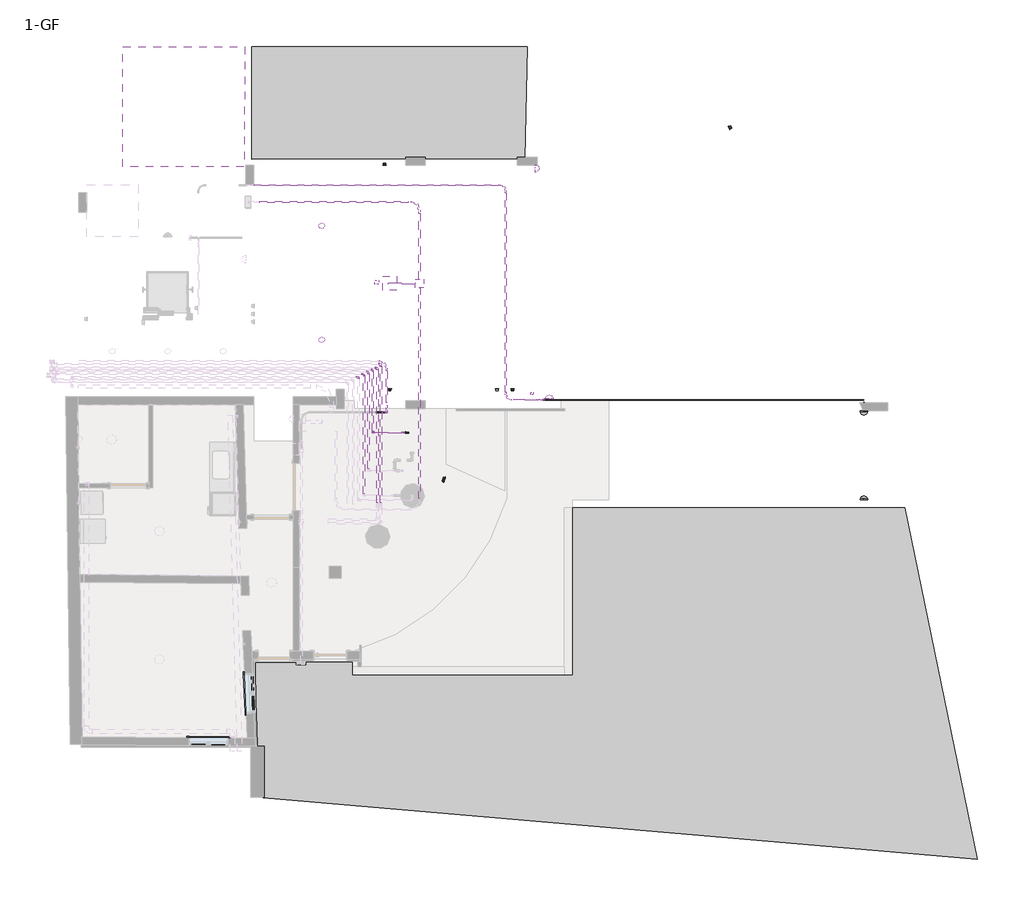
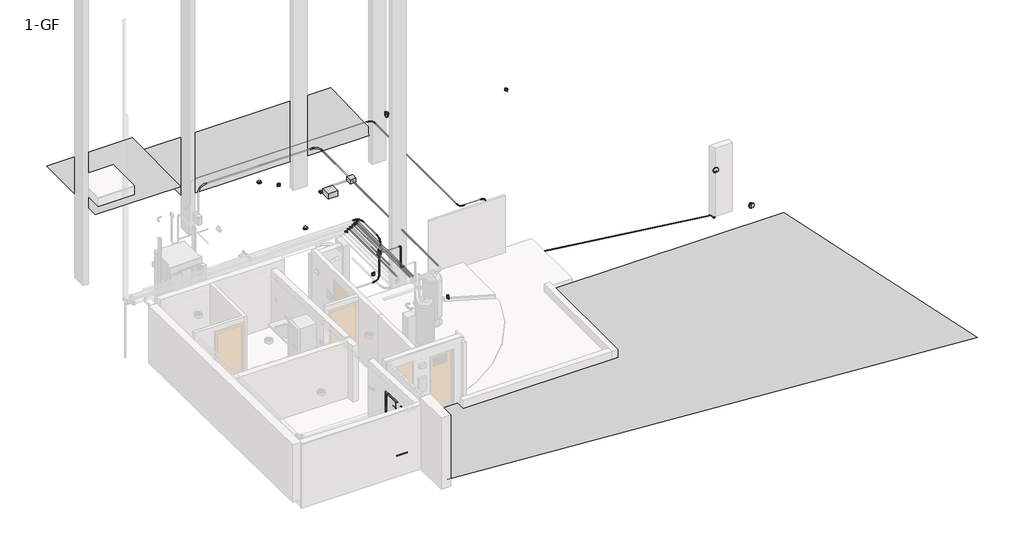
# One storey, part 5 of 5: 17 proxies, 12 cable carrier segments, 11 cable carrier fittings, 10 pipe fittings, 9 pipe segments, 7 light fixtures, 2 switching devices.
"""IFC4 building model written with IfcOpenShell, lengths in millimetres."""

from ifc_helpers import new_model, si_unit, point, frame, frame_2d, origin, place, context, project, spatial, circle_curve, trimmed, segment, composite_curve, outline, extrude, triangles, transform, mapped, element, save
from components import generic_models_1_generic_models_1_3ff43404, m_muntin_pattern_2x2_m_muntin_pattern_2x2_c1980b4f, m_muntin_pattern_2x2_m_muntin_pattern_2x2_d1c301e3, m_trim_window_exterior_flat_with_sill_cf2ed956, m_trim_window_interior_flat_picture_frame_fc7df726, wall_mounted_socket_ups_wall_mounted_socket_ups_4524048d, m_conduit_elbow_steel_standard_5c2c710b, m_conduit_elbow_steel_standard_c9f8af3b, m_conduit_elbow_steel_standard_91f70f14, m_conduit_elbow_without_fittings_emt_standard_0e6a189b, m_conduit_junction_box_tee_aluminum_standard_6fbf93d3, m_conduit_junction_box_tee_aluminum_standard_8073d2f8, m_recessed_lamp_round_led_e6f06c98, m_recessed_lamp_round_led_ae0475c0, street_light_07_uk_wall_mounted_94188376, street_light_07_uk_wall_mounted_68d1d246, m_bend_pvc_sch_40_dwv_standard_48d77e49, m_bend_pvc_sch_40_dwv_standard_b153bf5a, m_bend_pvc_sch_40_dwv_standard_be9000f5, switching_device_8f59fbb7, switching_device_ab05ab5c

model = new_model("IFC4")

# Units and contexts
model_context = context("Model", 3, world=origin())
ifc_project = project(units=[si_unit("LENGTHUNIT", "METRE", prefix="MILLI")], contexts=[model_context])

# Site, building, storey
site = spatial("IfcSite", under=ifc_project)
building = spatial("IfcBuilding", under=site)
storey = spatial("IfcBuildingStorey", under=building, Name="1-GF", Elevation=580.0)

# Proxies
placement = place(None, origin())
element("IfcBuildingElementProxy", 1, Name="Building Element Proxy", at=placement, inside=storey, context=model_context, shape_type="Tessellation", body=[
    triangles([(-543.6998437, -7000.2814316, 579.9999899), (17685.2228394, -8571.8337616, 579.9999899), (15844.0061554, 327.6987476, 579.9999899), (7426.3856552, 327.6987476, 579.9999899), (7426.3856552, -3902.0661827, 579.9999899), (1876.3853222, -3902.0661827, 579.9999899), (1876.3853222, -3574.6966301, 579.9999899), (-577.3736604, -3599.9116608, 579.9999899)], [[1, 6, 8], [6, 1, 5], [7, 8, 6], [5, 2, 3], [2, 5, 1], [3, 4, 5]], closed=False),
])
element("IfcBuildingElementProxy", 2, Name="Building Element Proxy", at=placement, inside=storey, context=model_context, shape_type="Tessellation", body=[
    triangles([(-3942.1224586, 11999.6303467, 2200.0000168), (-852.4765995, 11999.6303467, 2200.0000168), (-877.4765997, 8951.6623215, 2200.0000168), (-3942.1224586, 8951.6623215, 2200.0000168)], [[1, 4, 3], [3, 2, 1]], closed=False),
])
element("IfcBuildingElementProxy", 3, Name="Building Element Proxy", at=placement, inside=storey, context=model_context, shape_type="Tessellation", body=[
    triangles([(-677.4765982, 11999.6303467, 1600.0000122), (6287.8772415, 11999.6303467, 1600.0000122), (6231.0795456, 9163.1872009, 1600.0000122), (-677.4765982, 9151.662323, 1600.0000122)], [[1, 4, 3], [3, 2, 1]], closed=False),
])
generic_models_1_generic_models_1_shape = generic_models_1_generic_models_1_3ff43404(model_context)
element("IfcBuildingElementProxy", 4, Name="Generic Models 1 : Generic Models 1", ObjectType="Generic Models 1 : Generic Models 1", at=placement, inside=storey, context=model_context, shape_type="MappedRepresentation", body=[
    mapped(generic_models_1_generic_models_1_shape, transform((0.0, 0.0, 0.0), x_axis=(1.0, 0.0, 0.0), y_axis=(0.0, 1.0, 0.0), z_axis=(0.0, 0.0, 1.0))),
])
m_muntin_pattern_2x2_m_muntin_pattern_2x2_shape = m_muntin_pattern_2x2_m_muntin_pattern_2x2_c1980b4f(model_context)
element("IfcBuildingElementProxy", 5, Name="M_Muntin Pattern_2x2 : M_Muntin Pattern_2x2", ObjectType="M_Muntin Pattern_2x2 : M_Muntin Pattern_2x2", at=placement, inside=storey, context=model_context, shape_type="MappedRepresentation", body=[
    mapped(m_muntin_pattern_2x2_m_muntin_pattern_2x2_shape, transform((-660.9392563, -4117.6981437, 1179.9741971), x_axis=(0.03991052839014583, -0.9992032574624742, 0.0), y_axis=(0.9992032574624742, 0.03991052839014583, 0.0), z_axis=(0.0, 0.0, 1.0))),
])
element("IfcBuildingElementProxy", 6, Name="M_Muntin Pattern_2x2 : M_Muntin Pattern_2x2", ObjectType="M_Muntin Pattern_2x2 : M_Muntin Pattern_2x2", at=placement, inside=storey, context=model_context, shape_type="MappedRepresentation", body=[
    mapped(m_muntin_pattern_2x2_m_muntin_pattern_2x2_shape, transform((-1528.5445152, -5687.2705123, 1179.85), x_axis=(-0.9999589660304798, 0.009059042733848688, 0.0), y_axis=(-0.009059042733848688, -0.9999589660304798, 0.0), z_axis=(0.0, 0.0, 1.0))),
])
m_muntin_pattern_2x2_m_muntin_pattern_2x2_2_shape = m_muntin_pattern_2x2_m_muntin_pattern_2x2_d1c301e3(model_context)
element("IfcBuildingElementProxy", 7, Name="M_Muntin Pattern_2x2 : M_Muntin Pattern_2x2", ObjectType="M_Muntin Pattern_2x2 : M_Muntin Pattern_2x2", at=placement, inside=storey, context=model_context, shape_type="MappedRepresentation", body=[
    mapped(m_muntin_pattern_2x2_m_muntin_pattern_2x2_2_shape, transform((-641.1107081, -4614.1273021, 1179.9741971), x_axis=(-0.03991052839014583, 0.9992032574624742, 0.0), y_axis=(-0.9992032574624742, -0.03991052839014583, 0.0), z_axis=(0.0, 0.0, 1.0))),
])
element("IfcBuildingElementProxy", 8, Name="M_Muntin Pattern_2x2 : M_Muntin Pattern_2x2", ObjectType="M_Muntin Pattern_2x2 : M_Muntin Pattern_2x2", at=placement, inside=storey, context=model_context, shape_type="MappedRepresentation", body=[
    mapped(m_muntin_pattern_2x2_m_muntin_pattern_2x2_2_shape, transform((-2025.3491285, -5682.7697534, 1179.85), x_axis=(0.9999589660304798, -0.009059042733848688, 0.0), y_axis=(0.009059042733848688, 0.9999589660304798, 0.0), z_axis=(0.0, 0.0, 1.0))),
])
m_trim_window_exterior_flat_with_sill_shape = m_trim_window_exterior_flat_with_sill_cf2ed956(model_context)
element("IfcBuildingElementProxy", 9, Name="M_Trim-Window-Exterior-Flat : with Sill", ObjectType="M_Trim-Window-Exterior-Flat : with Sill", at=placement, inside=storey, context=model_context, shape_type="MappedRepresentation", body=[
    mapped(m_trim_window_exterior_flat_with_sill_shape, transform((-641.5075712, -4365.5325751, 2110.1241971), x_axis=(-0.03991052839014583, 0.9992032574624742, 0.0), y_axis=(0.0, 0.0, 1.0), z_axis=(0.9992032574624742, 0.03991052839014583, 0.0))),
])
element("IfcBuildingElementProxy", 10, Name="M_Trim-Window-Exterior-Flat : with Sill", ObjectType="M_Trim-Window-Exterior-Flat : with Sill", at=placement, inside=storey, context=model_context, shape_type="MappedRepresentation", body=[
    mapped(m_trim_window_exterior_flat_with_sill_shape, transform((-1777.0331093, -5694.544742, 2110.0), x_axis=(0.9999589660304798, -0.009059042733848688, 0.0), y_axis=(0.0, 0.0, 1.0), z_axis=(-0.009059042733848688, -0.9999589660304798, 0.0))),
])
m_trim_window_interior_flat_picture_frame_shape = m_trim_window_interior_flat_picture_frame_fc7df726(model_context)
element("IfcBuildingElementProxy", 11, Name="M_Trim-Window-Interior-Flat : Picture Frame", ObjectType="M_Trim-Window-Interior-Flat : Picture Frame", at=placement, inside=storey, context=model_context, shape_type="MappedRepresentation", body=[
    mapped(m_trim_window_interior_flat_picture_frame_shape, transform((-841.3482227, -4373.5146808, 2110.1241971), x_axis=(0.03991052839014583, -0.9992032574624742, 0.0), y_axis=(0.0, 0.0, 1.0), z_axis=(-0.9992032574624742, -0.03991052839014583, 0.0))),
])
element("IfcBuildingElementProxy", 12, Name="M_Trim-Window-Interior-Flat : Picture Frame", ObjectType="M_Trim-Window-Interior-Flat : Picture Frame", at=placement, inside=storey, context=model_context, shape_type="MappedRepresentation", body=[
    mapped(m_trim_window_interior_flat_picture_frame_shape, transform((-1775.2213007, -5494.5529488, 2110.0), x_axis=(-0.9999589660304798, 0.009059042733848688, 0.0), y_axis=(0.0, 0.0, 1.0), z_axis=(0.009059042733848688, 0.9999589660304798, 0.0))),
])
wall_mounted_socket_ups_wall_mounted_socket_ups_shape = wall_mounted_socket_ups_wall_mounted_socket_ups_4524048d(model_context)
element("IfcBuildingElementProxy", 13, Name="WALL MOUNTED SOCKET : WALL MOUNTED SOCKET", ObjectType="WALL MOUNTED SOCKET : WALL MOUNTED SOCKET", at=placement, inside=storey, context=model_context, shape_type="MappedRepresentation", body=[
    mapped(wall_mounted_socket_ups_wall_mounted_socket_ups_shape, transform((2680.2004489, 9001.6620874, 980.0), x_axis=(1.0, 0.0, 0.0), y_axis=(0.0, 0.0, 1.0), z_axis=(0.0, -1.0, 0.0))),
])
element("IfcBuildingElementProxy", 14, Name="WALL MOUNTED SOCKET : WALL MOUNTED SOCKET", ObjectType="WALL MOUNTED SOCKET : WALL MOUNTED SOCKET", at=placement, inside=storey, context=model_context, shape_type="MappedRepresentation", body=[
    mapped(wall_mounted_socket_ups_wall_mounted_socket_ups_shape, transform((2812.5234079, 3334.4560655, 980.0), x_axis=(-1.0, 0.0, 0.0), y_axis=(0.0, 0.0, 1.0), z_axis=(0.0, 1.0, 0.0))),
])
element("IfcBuildingElementProxy", 15, Name="WALL MOUNTED SOCKET : WALL MOUNTED SOCKET", ObjectType="WALL MOUNTED SOCKET : WALL MOUNTED SOCKET", at=placement, inside=storey, context=model_context, shape_type="MappedRepresentation", body=[
    mapped(wall_mounted_socket_ups_wall_mounted_socket_ups_shape, transform((5917.3234079, 3334.4560655, 980.0), x_axis=(-1.0, 0.0, 0.0), y_axis=(0.0, 0.0, 1.0), z_axis=(0.0, 1.0, 0.0))),
])
element("IfcBuildingElementProxy", 16, Name="WALL MOUNTED SOCKET : WALL MOUNTED SOCKET", ObjectType="WALL MOUNTED SOCKET : WALL MOUNTED SOCKET", at=placement, inside=storey, context=model_context, shape_type="MappedRepresentation", body=[
    mapped(wall_mounted_socket_ups_wall_mounted_socket_ups_shape, transform((2483.1496132, 6036.9824461, 2573.0), x_axis=(1.0, 0.0, 0.0), y_axis=(0.0, -1.0, 0.0), z_axis=(0.0, 0.0, -1.0))),
])
element("IfcBuildingElementProxy", 17, Name="WALL MOUNTED WATERPROOF SOCKET : WALL MOUNTED WATERPROOF SOCKET", ObjectType="WALL MOUNTED WATERPROOF SOCKET : WALL MOUNTED WATERPROOF SOCKET", at=placement, inside=storey, context=model_context, shape_type="MappedRepresentation", body=[
    mapped(wall_mounted_socket_ups_wall_mounted_socket_ups_shape, transform((11408.2331646, 9943.0552115, 980.0), x_axis=(0.4275348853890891, -0.9039988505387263, 0.0), y_axis=(0.0, 0.0, 1.0), z_axis=(-0.9039988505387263, -0.4275348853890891, 0.0))),
])

# Cable carrier fittings
m_conduit_elbow_steel_standard_shape = m_conduit_elbow_steel_standard_5c2c710b(model_context)
element("IfcCableCarrierFitting", 18, ObjectType="M_Conduit Elbow - Steel : Standard", at=placement, inside=storey, context=model_context, shape_type="MappedRepresentation", body=[
    mapped(m_conduit_elbow_steel_standard_shape, transform((5751.3853705, 8484.4560655, 2682.4859186), x_axis=(0.0, 0.9999999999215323, -1.252738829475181e-05), y_axis=(-0.9999999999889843, -5.880117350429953e-11, -4.69380944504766e-06), z_axis=(-4.693809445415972e-06, 1.2527388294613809e-05, 0.9999999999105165))),
])
element("IfcCableCarrierFitting", 19, ObjectType="M_Conduit Elbow - Steel : Standard", at=placement, inside=storey, context=model_context, shape_type="MappedRepresentation", body=[
    mapped(m_conduit_elbow_steel_standard_shape, transform((5751.3853705, 3055.6486589, 2682.5539274), x_axis=(0.0, -0.9999999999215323, 1.252738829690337e-05), y_axis=(1.0, 0.0, 0.0), z_axis=(0.0, 1.252738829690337e-05, 0.9999999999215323))),
])
element("IfcCableCarrierFitting", 20, ObjectType="M_Conduit Elbow - Steel : Standard", at=placement, inside=storey, context=model_context, shape_type="MappedRepresentation", body=[
    mapped(m_conduit_elbow_steel_standard_shape, transform((6710.3774899, 3055.6486583, 2682.5), x_axis=(1.0, 0.0, 0.0), y_axis=(0.0, 0.0, -1.0), z_axis=(0.0, 1.0, 0.0))),
])
element("IfcCableCarrierFitting", 21, ObjectType="M_Conduit Elbow - Steel : Standard", at=placement, inside=storey, context=model_context, shape_type="MappedRepresentation", body=[
    mapped(m_conduit_elbow_steel_standard_shape, transform((14814.0777471, 2804.0515913, -820.0), x_axis=(0.0, 0.0, -1.0), y_axis=(-0.003520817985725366, 0.9999938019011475, 0.0), z_axis=(0.9999938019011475, 0.003520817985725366, 0.0))),
])
m_conduit_elbow_steel_standard_2_shape = m_conduit_elbow_steel_standard_c9f8af3b(model_context)
element("IfcCableCarrierFitting", 22, ObjectType="M_Conduit Elbow - Steel : Standard", at=placement, inside=storey, context=model_context, shape_type="MappedRepresentation", body=[
    mapped(m_conduit_elbow_steel_standard_2_shape, transform((2732.5234079, 2740.6, 2710.0), x_axis=(0.0, 0.0, 1.0), y_axis=(0.0, 1.0, 0.0), z_axis=(-1.0, 0.0, 0.0))),
])
element("IfcCableCarrierFitting", 23, ObjectType="M_Conduit Elbow - Steel : Standard", at=placement, inside=storey, context=model_context, shape_type="MappedRepresentation", body=[
    mapped(m_conduit_elbow_steel_standard_2_shape, transform((2732.5234079, 4039.2572999, 2710.0), x_axis=(0.0, 1.0, 0.0), y_axis=(-1.0, 0.0, 0.0), z_axis=(0.0, 0.0, 1.0))),
])
element("IfcCableCarrierFitting", 24, ObjectType="M_Conduit Elbow - Steel : Standard", at=placement, inside=storey, context=model_context, shape_type="MappedRepresentation", body=[
    mapped(m_conduit_elbow_steel_standard_2_shape, transform((2692.5, 2740.6, 1145.0), x_axis=(0.0, 0.0, -1.0), y_axis=(-1.0, 0.0, 0.0), z_axis=(0.0, 1.0, 0.0))),
])
m_conduit_elbow_steel_standard_3_shape = m_conduit_elbow_steel_standard_91f70f14(model_context)
element("IfcCableCarrierFitting", 25, ObjectType="M_Conduit Elbow - Steel : Standard", at=placement, inside=storey, context=model_context, shape_type="MappedRepresentation", body=[
    mapped(m_conduit_elbow_steel_standard_3_shape, transform((6710.3774899, 3055.6486583, 180.0), x_axis=(0.0, 0.0, -1.0), y_axis=(1.0, 0.0, 0.0), z_axis=(0.0, -1.0, 0.0))),
])
m_conduit_elbow_without_fittings_emt_standard_shape = m_conduit_elbow_without_fittings_emt_standard_0e6a189b(model_context)
element("IfcCableCarrierFitting", 26, ObjectType="M_Conduit Elbow - without Fittings - EMT : Standard", at=placement, inside=storey, context=model_context, shape_type="MappedRepresentation", body=[
    mapped(m_conduit_elbow_without_fittings_emt_standard_shape, transform((3562.5234079, 8061.6620874, 2703.1), x_axis=(0.0, 1.0, 0.0), y_axis=(-1.0, 0.0, 0.0), z_axis=(0.0, 0.0, 1.0))),
])
m_conduit_junction_box_tee_aluminum_standard_shape = m_conduit_junction_box_tee_aluminum_standard_6fbf93d3(model_context)
element("IfcCableCarrierFitting", 27, ObjectType="M_Conduit Junction Box - Tee - Aluminum : Standard", at=placement, inside=storey, context=model_context, shape_type="MappedRepresentation", body=[
    mapped(m_conduit_junction_box_tee_aluminum_standard_shape, transform((3562.5234079, 6002.1026625, 2703.1), x_axis=(0.0, -1.0, 0.0), y_axis=(1.0, 0.0, 0.0), z_axis=(0.0, 0.0, 1.0))),
])
m_conduit_junction_box_tee_aluminum_standard_2_shape = m_conduit_junction_box_tee_aluminum_standard_8073d2f8(model_context)
element("IfcCableCarrierFitting", 28, ObjectType="M_Conduit Junction Box - Tee - Aluminum : Standard", at=placement, inside=storey, context=model_context, shape_type="MappedRepresentation", body=[
    mapped(m_conduit_junction_box_tee_aluminum_standard_2_shape, transform((2692.5, 2740.6, 2175.0), x_axis=(0.0, 0.0, -1.0), y_axis=(1.0, 0.0, 0.0), z_axis=(0.0, -1.0, 0.0))),
])

# Cable carrier segments
element("IfcCableCarrierSegment", 29, ObjectType="Electrical Metallic Tubing (EMT)", at=placement, inside=storey, context=model_context, shape_type="SweptSolid", body=[
    extrude(outline(composite_curve([segment(trimmed(circle_curve(frame_2d((2703.1, 3562.5234079)), 19.175), [point((2703.1, 3581.6984079))], [point((2722.275, 3562.5234079))], False, "CARTESIAN"), True, "CONTINUOUS"), segment(trimmed(circle_curve(frame_2d((2703.1, 3562.5234079)), 19.175), [point((2722.275, 3562.5234079))], [point((2703.1, 3543.3484079))], False, "CARTESIAN"), True, "CONTINUOUS"), segment(trimmed(circle_curve(frame_2d((2703.1, 3562.5234079)), 19.175), [point((2703.1, 3543.3484079))], [point((2683.925, 3562.5234079))], False, "CARTESIAN"), True, "CONTINUOUS"), segment(trimmed(circle_curve(frame_2d((2703.1, 3562.5234079)), 19.175), [point((2683.925, 3562.5234079))], [point((2703.1, 3581.6984079))], False, "CARTESIAN"), True, "CONTINUOUS")], self_intersect=False)), frame((0.0, 6107.1026625, 0.0), z_axis=(0.0, 1.0, 0.0), x_axis=(0.0, 0.0, 1.0)), (0.0, 0.0, 1.0), 1675.0294248),
])
element("IfcCableCarrierSegment", 30, ObjectType="Electrical Metallic Tubing (EMT)", at=placement, inside=storey, context=model_context, shape_type="SweptSolid", body=[
    extrude(outline(composite_curve([segment(trimmed(circle_curve(frame_2d((8061.6620874, 2703.1)), 19.175), [point((8080.8370874, 2703.1))], [point((8061.6620874, 2683.925))], False, "CARTESIAN"), True, "CONTINUOUS"), segment(trimmed(circle_curve(frame_2d((8061.6620874, 2703.1)), 19.175), [point((8061.6620874, 2683.925))], [point((8042.4870874, 2703.1))], False, "CARTESIAN"), True, "CONTINUOUS"), segment(trimmed(circle_curve(frame_2d((8061.6620874, 2703.1)), 19.175), [point((8042.4870874, 2703.1))], [point((8061.6620874, 2722.275))], False, "CARTESIAN"), True, "CONTINUOUS"), segment(trimmed(circle_curve(frame_2d((8061.6620874, 2703.1)), 19.175), [point((8061.6620874, 2722.275))], [point((8080.8370874, 2703.1))], False, "CARTESIAN"), True, "CONTINUOUS")], self_intersect=False)), frame((-472.9465921, 0.0, 0.0), z_axis=(1.0, 0.0, 0.0), x_axis=(0.0, 1.0, 0.0)), (0.0, 0.0, 1.0), 3755.94),
])
element("IfcCableCarrierSegment", 31, ObjectType="Electrical Metallic Tubing (EMT)", at=placement, inside=storey, context=model_context, shape_type="SweptSolid", body=[
    extrude(outline(composite_curve([segment(trimmed(circle_curve(frame_2d((6002.1026625, 2703.1)), 19.175), [point((6021.2776625, 2703.1))], [point((6002.1026625, 2683.925))], False, "CARTESIAN"), True, "CONTINUOUS"), segment(trimmed(circle_curve(frame_2d((6002.1026625, 2703.1)), 19.175), [point((6002.1026625, 2683.925))], [point((5982.9276625, 2703.1))], False, "CARTESIAN"), True, "CONTINUOUS"), segment(trimmed(circle_curve(frame_2d((6002.1026625, 2703.1)), 19.175), [point((5982.9276625, 2703.1))], [point((6002.1026625, 2722.275))], False, "CARTESIAN"), True, "CONTINUOUS"), segment(trimmed(circle_curve(frame_2d((6002.1026625, 2703.1)), 19.175), [point((6002.1026625, 2722.275))], [point((6021.2776625, 2703.1))], False, "CARTESIAN"), True, "CONTINUOUS")], self_intersect=False)), frame((2777.5234079, 0.0, 0.0), z_axis=(1.0, 0.0, 0.0), x_axis=(0.0, 1.0, 0.0)), (0.0, 0.0, 1.0), 680.0),
])
element("IfcCableCarrierSegment", 32, ObjectType="Electrical Metallic Tubing (EMT)", at=placement, inside=storey, context=model_context, shape_type="SweptSolid", body=[
    extrude(outline(composite_curve([segment(trimmed(circle_curve(frame_2d((2703.1, 3562.5234079)), 19.175), [point((2703.1, 3581.6984079))], [point((2722.275, 3562.5234079))], False, "CARTESIAN"), True, "CONTINUOUS"), segment(trimmed(circle_curve(frame_2d((2703.1, 3562.5234079)), 19.175), [point((2722.275, 3562.5234079))], [point((2703.1, 3543.3484079))], False, "CARTESIAN"), True, "CONTINUOUS"), segment(trimmed(circle_curve(frame_2d((2703.1, 3562.5234079)), 19.175), [point((2703.1, 3543.3484079))], [point((2683.925, 3562.5234079))], False, "CARTESIAN"), True, "CONTINUOUS"), segment(trimmed(circle_curve(frame_2d((2703.1, 3562.5234079)), 19.175), [point((2683.925, 3562.5234079))], [point((2703.1, 3581.6984079))], False, "CARTESIAN"), True, "CONTINUOUS")], self_intersect=False)), frame((0.0, 566.7355615, 0.0), z_axis=(0.0, 1.0, 0.0), x_axis=(0.0, 0.0, 1.0)), (0.0, 0.0, 1.0), 5330.367101),
])
element("IfcCableCarrierSegment", 33, ObjectType="Low Current", at=placement, inside=storey, context=model_context, shape_type="SweptSolid", body=[
    extrude(outline(composite_curve([segment(trimmed(circle_curve(frame_2d((2710.0, 2732.5234079)), 14.77), [point((2710.0, 2717.7534079))], [point((2695.23, 2732.5234079))], False, "CARTESIAN"), True, "CONTINUOUS"), segment(trimmed(circle_curve(frame_2d((2710.0, 2732.5234079)), 14.77), [point((2695.23, 2732.5234079))], [point((2710.0, 2747.2934079))], False, "CARTESIAN"), True, "CONTINUOUS"), segment(trimmed(circle_curve(frame_2d((2710.0, 2732.5234079)), 14.77), [point((2710.0, 2747.2934079))], [point((2724.77, 2732.5234079))], False, "CARTESIAN"), True, "CONTINUOUS"), segment(trimmed(circle_curve(frame_2d((2710.0, 2732.5234079)), 14.77), [point((2724.77, 2732.5234079))], [point((2710.0, 2717.7534079))], False, "CARTESIAN"), True, "CONTINUOUS")], self_intersect=False)), frame((0.0, 2981.9, 0.0), z_axis=(0.0, 1.0, 0.0), x_axis=(0.0, 0.0, 1.0)), (0.0, 0.0, 1.0), 816.0572999),
])
element("IfcCableCarrierSegment", 34, ObjectType="Low Current", at=placement, inside=storey, context=model_context, shape_type="SweptSolid", body=[
    extrude(outline(composite_curve([segment(trimmed(circle_curve(frame_2d((0.0, -11.71)), 11.71), [point((-11.71, -11.71))], [point((0.0, 0.0))], False, "CARTESIAN"), True, "CONTINUOUS"), segment(trimmed(circle_curve(frame_2d((0.0, -11.71)), 11.71), [point((0.0, 0.0))], [point((11.71, -11.71))], False, "CARTESIAN"), True, "CONTINUOUS"), segment(trimmed(circle_curve(frame_2d((0.0, -11.71)), 11.71), [point((11.71, -11.71))], [point((0.0, -23.42))], False, "CARTESIAN"), True, "CONTINUOUS"), segment(trimmed(circle_curve(frame_2d((0.0, -11.71)), 11.71), [point((0.0, -23.42))], [point((-11.71, -11.71))], False, "CARTESIAN"), True, "CONTINUOUS")], self_intersect=False)), frame((-619.7024538, 8484.4560654, 2670.7583262), z_axis=(0.999999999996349, 0.0, 2.7022281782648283e-06), x_axis=(0.0, -1.0, 0.0)), (0.0, 0.0, 1.0), 6182.1753561),
])
element("IfcCableCarrierSegment", 35, ObjectType="Low Current", at=placement, inside=storey, context=model_context, shape_type="SweptSolid", body=[
    extrude(outline(composite_curve([segment(trimmed(circle_curve(frame_2d((0.0, 11.71)), 11.71), [point((0.0, 0.0))], [point((-11.71, 11.71))], False, "CARTESIAN"), True, "CONTINUOUS"), segment(trimmed(circle_curve(frame_2d((0.0, 11.71)), 11.71), [point((-11.71, 11.71))], [point((0.0, 23.42))], False, "CARTESIAN"), True, "CONTINUOUS"), segment(trimmed(circle_curve(frame_2d((0.0, 11.71)), 11.71), [point((0.0, 23.42))], [point((11.71, 11.71))], False, "CARTESIAN"), True, "CONTINUOUS"), segment(trimmed(circle_curve(frame_2d((0.0, 11.71)), 11.71), [point((11.71, 11.71))], [point((0.0, 0.0))], False, "CARTESIAN"), True, "CONTINUOUS")], self_intersect=False)), frame((5739.6753705, 8295.5435655, 2682.4882852), z_axis=(0.0, -0.9999999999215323, 1.2527388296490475e-05), x_axis=(0.0, -1.2527388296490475e-05, -0.9999999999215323)), (0.0, 0.0, 1.0), 5050.9824069),
])
element("IfcCableCarrierSegment", 36, ObjectType="Low Current", at=placement, inside=storey, context=model_context, shape_type="SweptSolid", body=[
    extrude(outline(composite_curve([segment(trimmed(circle_curve(frame_2d((3055.6486589, 2682.5539274)), 11.71), [point((3043.9386589, 2682.554074))], [point((3055.6488056, 2694.2639273))], False, "CARTESIAN"), True, "CONTINUOUS"), segment(trimmed(circle_curve(frame_2d((3055.6486589, 2682.5539274)), 11.71), [point((3055.6488056, 2694.2639273))], [point((3067.3586589, 2682.5537807))], False, "CARTESIAN"), True, "CONTINUOUS"), segment(trimmed(circle_curve(frame_2d((3055.6486589, 2682.5539274)), 11.71), [point((3067.3586589, 2682.5537807))], [point((3055.6485122, 2670.8439274))], False, "CARTESIAN"), True, "CONTINUOUS"), segment(trimmed(circle_curve(frame_2d((3055.6486589, 2682.5539274)), 11.71), [point((3055.6485122, 2670.8439274))], [point((3043.9386589, 2682.554074))], False, "CARTESIAN"), True, "CONTINUOUS")], self_intersect=False)), frame((5940.2978705, 0.0, 0.0), z_axis=(1.0, 0.0, 0.0), x_axis=(0.0, 1.0, 0.0)), (0.0, 0.0, 1.0), 581.1671194),
])
element("IfcCableCarrierSegment", 37, ObjectType="Low Current", at=placement, inside=storey, context=model_context, shape_type="SweptSolid", body=[
    extrude(outline(composite_curve([segment(trimmed(circle_curve(frame_2d((0.0, -11.71)), 11.71), [point((0.0, -23.42))], [point((-11.71, -11.71))], False, "CARTESIAN"), True, "CONTINUOUS"), segment(trimmed(circle_curve(frame_2d((0.0, -11.71)), 11.71), [point((-11.71, -11.71))], [point((0.0, 0.0))], False, "CARTESIAN"), True, "CONTINUOUS"), segment(trimmed(circle_curve(frame_2d((0.0, -11.71)), 11.71), [point((0.0, 0.0))], [point((11.71, -11.71))], False, "CARTESIAN"), True, "CONTINUOUS"), segment(trimmed(circle_curve(frame_2d((0.0, -11.71)), 11.71), [point((11.71, -11.71))], [point((0.0, -23.42))], False, "CARTESIAN"), True, "CONTINUOUS")], self_intersect=False)), frame((14810.3774899, 3067.3586583, -820.0), z_axis=(-0.9924652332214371, 0.0, 0.12252657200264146), x_axis=(0.12252657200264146, 0.0, 0.9924652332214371)), (0.0, 0.0, 1.0), 7987.8490994),
])
element("IfcCableCarrierSegment", 38, ObjectType="Low Current", at=placement, inside=storey, context=model_context, shape_type="SweptSolid", body=[
    extrude(outline(composite_curve([segment(trimmed(circle_curve(frame_2d((6710.3774899, 3055.6486583)), 11.71), [point((6722.0874899, 3055.6486583))], [point((6710.3774899, 3043.9386583))], False, "CARTESIAN"), True, "CONTINUOUS"), segment(trimmed(circle_curve(frame_2d((6710.3774899, 3055.6486583)), 11.71), [point((6710.3774899, 3043.9386583))], [point((6698.6674899, 3055.6486583))], False, "CARTESIAN"), True, "CONTINUOUS"), segment(trimmed(circle_curve(frame_2d((6710.3774899, 3055.6486583)), 11.71), [point((6698.6674899, 3055.6486583))], [point((6710.3774899, 3067.3586583))], False, "CARTESIAN"), True, "CONTINUOUS"), segment(trimmed(circle_curve(frame_2d((6710.3774899, 3055.6486583)), 11.71), [point((6710.3774899, 3067.3586583))], [point((6722.0874899, 3055.6486583))], False, "CARTESIAN"), True, "CONTINUOUS")], self_intersect=False)), frame((0.0, 0.0, 353.6458617), z_axis=(0.0, 0.0, 1.0), x_axis=(1.0, 0.0, 0.0)), (0.0, 0.0, 1.0), 2139.9416383),
])
element("IfcCableCarrierSegment", 39, ObjectType="Low Current", at=placement, inside=storey, context=model_context, shape_type="SweptSolid", body=[
    extrude(outline(composite_curve([segment(trimmed(circle_curve(frame_2d((2692.5, 2740.6)), 14.77), [point((2707.27, 2740.6))], [point((2692.5, 2725.83))], False, "CARTESIAN"), True, "CONTINUOUS"), segment(trimmed(circle_curve(frame_2d((2692.5, 2740.6)), 14.77), [point((2692.5, 2725.83))], [point((2677.73, 2740.6))], False, "CARTESIAN"), True, "CONTINUOUS"), segment(trimmed(circle_curve(frame_2d((2692.5, 2740.6)), 14.77), [point((2677.73, 2740.6))], [point((2692.5, 2755.37))], False, "CARTESIAN"), True, "CONTINUOUS"), segment(trimmed(circle_curve(frame_2d((2692.5, 2740.6)), 14.77), [point((2692.5, 2755.37))], [point((2707.27, 2740.6))], False, "CARTESIAN"), True, "CONTINUOUS")], self_intersect=False)), frame((0.0, 0.0, 1386.3), z_axis=(0.0, 0.0, 1.0), x_axis=(1.0, 0.0, 0.0)), (0.0, 0.0, 1.0), 730.7),
])
element("IfcCableCarrierSegment", 40, ObjectType="Low Current", at=placement, inside=storey, context=model_context, shape_type="SweptSolid", body=[
    extrude(outline(composite_curve([segment(trimmed(circle_curve(frame_2d((14814.0777471, 2804.0515913)), 11.71), [point((14802.3677471, 2804.0515913))], [point((14814.0777471, 2815.7615913))], False, "CARTESIAN"), True, "CONTINUOUS"), segment(trimmed(circle_curve(frame_2d((14814.0777471, 2804.0515913)), 11.71), [point((14814.0777471, 2815.7615913))], [point((14825.7877471, 2804.0515913))], False, "CARTESIAN"), True, "CONTINUOUS"), segment(trimmed(circle_curve(frame_2d((14814.0777471, 2804.0515913)), 11.71), [point((14825.7877471, 2804.0515913))], [point((14814.0777471, 2792.3415913))], False, "CARTESIAN"), True, "CONTINUOUS"), segment(trimmed(circle_curve(frame_2d((14814.0777471, 2804.0515913)), 11.71), [point((14814.0777471, 2792.3415913))], [point((14802.3677471, 2804.0515913))], False, "CARTESIAN"), True, "CONTINUOUS")], self_intersect=False)), frame((0.0, 0.0, -631.0875), z_axis=(0.0, 0.0, 1.0), x_axis=(1.0, 0.0, 0.0)), (0.0, 0.0, 1.0), 1062.0875),
])

# Light fixtures
m_recessed_lamp_round_led_shape = m_recessed_lamp_round_led_e6f06c98(model_context)
element("IfcLightFixture", 41, ObjectType="M_Recessed Lamp - Round - LED : 100mm Trimless Downlight", at=placement, inside=storey, context=model_context, shape_type="MappedRepresentation", body=[
    mapped(m_recessed_lamp_round_led_shape, transform((4193.4266932, 1040.3209904, 1019.1236613), x_axis=(0.297979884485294, 0.9545721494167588, 0.0), y_axis=(0.0, 0.0, 1.0), z_axis=(0.9545721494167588, -0.29797988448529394, 0.0))),
])
element("IfcLightFixture", 42, ObjectType="M_Recessed Lamp - Round - LED : 100mm Trimless Downlight", at=placement, inside=storey, context=model_context, shape_type="MappedRepresentation", body=[
    mapped(m_recessed_lamp_round_led_shape, transform((1091.0786834, 7460.0981743, 2573.0), x_axis=(1.0, 0.0, 0.0), y_axis=(0.0, -1.0, 0.0), z_axis=(0.0, 0.0, -1.0))),
])
m_recessed_lamp_round_led_2_shape = m_recessed_lamp_round_led_ae0475c0(model_context)
element("IfcLightFixture", 43, ObjectType="M_Recessed Lamp - Round - LED : 100mm Trimless Downlight", at=placement, inside=storey, context=model_context, shape_type="MappedRepresentation", body=[
    mapped(m_recessed_lamp_round_led_2_shape, transform((1091.0786834, 4576.9703482, 2573.0), x_axis=(1.0, 0.0, 0.0), y_axis=(0.0, -1.0, 0.0), z_axis=(0.0, 0.0, -1.0))),
])
street_light_07_uk_wall_mounted_shape = street_light_07_uk_wall_mounted_94188376(model_context)
element("IfcLightFixture", 44, ObjectType="Street Light 07 (UK) : Wall Mounted", at=placement, inside=storey, context=model_context, shape_type="MappedRepresentation", body=[
    mapped(street_light_07_uk_wall_mounted_shape, transform((6722.8774899, 3055.6486583, 101.3392083), x_axis=(1.0, 0.0, 0.0), y_axis=(0.0, 1.0, 0.0), z_axis=(0.0, 0.0, 1.0))),
])
street_light_07_uk_wall_mounted_2_shape = street_light_07_uk_wall_mounted_68d1d246(model_context)
element("IfcLightFixture", 45, ObjectType="Street Light 07 (UK) : Wall Mounted", at=placement, inside=storey, context=model_context, shape_type="MappedRepresentation", body=[
    mapped(street_light_07_uk_wall_mounted_2_shape, transform((14685.8774901, 427.6987644, -1198.6607917), x_axis=(1.0, 0.0, 0.0), y_axis=(0.0, 1.0, 0.0), z_axis=(0.0, 0.0, 1.0))),
])
element("IfcLightFixture", 46, ObjectType="Street Light 07 (UK) : Wall Mounted", at=placement, inside=storey, context=model_context, shape_type="MappedRepresentation", body=[
    mapped(street_light_07_uk_wall_mounted_2_shape, transform((6387.8774899, 9040.6486583, 101.3392083), x_axis=(0.0, -1.0, 0.0), y_axis=(1.0, 0.0, 0.0), z_axis=(0.0, 0.0, 1.0))),
])
element("IfcLightFixture", 47, ObjectType="Street Light 07 (UK) : Wall Mounted", at=placement, inside=storey, context=model_context, shape_type="MappedRepresentation", body=[
    mapped(street_light_07_uk_wall_mounted_2_shape, transform((14935.8774901, 2880.6486583, -1198.6607917), x_axis=(-1.0, 0.0, 0.0), y_axis=(0.0, -1.0, 0.0), z_axis=(0.0, 0.0, 1.0))),
])

# Pipe fittings
m_bend_pvc_sch_40_dwv_standard_shape = m_bend_pvc_sch_40_dwv_standard_48d77e49(model_context)
element("IfcPipeFitting", 48, ObjectType="M_Bend - PVC - Sch 40 - DWV : Standard", at=placement, inside=storey, context=model_context, shape_type="MappedRepresentation", body=[
    mapped(m_bend_pvc_sch_40_dwv_standard_shape, transform((2498.0267351, 3875.4176655, 2700.0), x_axis=(0.0, 1.0, 0.0), y_axis=(-1.0, 0.0, 0.0), z_axis=(0.0, 0.0, 1.0))),
])
element("IfcPipeFitting", 49, ObjectType="M_Bend - PVC - Sch 40 - DWV : Standard", at=placement, inside=storey, context=model_context, shape_type="MappedRepresentation", body=[
    mapped(m_bend_pvc_sch_40_dwv_standard_shape, transform((2587.5267351, 3965.4176655, 2700.0), x_axis=(0.0, 1.0, 0.0), y_axis=(-1.0, 0.0, 0.0), z_axis=(0.0, 0.0, 1.0))),
])
m_bend_pvc_sch_40_dwv_standard_2_shape = m_bend_pvc_sch_40_dwv_standard_b153bf5a(model_context)
element("IfcPipeFitting", 50, ObjectType="M_Bend - PVC - Sch 40 - DWV : Standard", at=placement, inside=storey, context=model_context, shape_type="MappedRepresentation", body=[
    mapped(m_bend_pvc_sch_40_dwv_standard_2_shape, transform((2022.1726324, 3639.4560655, 2700.0), x_axis=(0.0, 1.0, 0.0), y_axis=(-1.0, 0.0, 0.0), z_axis=(0.0, 0.0, 1.0))),
])
element("IfcPipeFitting", 51, ObjectType="M_Bend - PVC - Sch 40 - DWV : Standard", at=placement, inside=storey, context=model_context, shape_type="MappedRepresentation", body=[
    mapped(m_bend_pvc_sch_40_dwv_standard_2_shape, transform((2272.5234079, 3771.7396194, 2700.0), x_axis=(0.0, 1.0, 0.0), y_axis=(-1.0, 0.0, 0.0), z_axis=(0.0, 0.0, 1.0))),
])
element("IfcPipeFitting", 52, ObjectType="M_Bend - PVC - Sch 40 - DWV : Standard", at=placement, inside=storey, context=model_context, shape_type="MappedRepresentation", body=[
    mapped(m_bend_pvc_sch_40_dwv_standard_2_shape, transform((2156.0345951, 3714.4560655, 2700.0), x_axis=(0.0, 1.0, 0.0), y_axis=(-1.0, 0.0, 0.0), z_axis=(0.0, 0.0, 1.0))),
])
m_bend_pvc_sch_40_dwv_standard_3_shape = m_bend_pvc_sch_40_dwv_standard_be9000f5(model_context)
element("IfcPipeFitting", 53, ObjectType="M_Bend - PVC - Sch 40 - DWV : Standard", at=placement, inside=storey, context=model_context, shape_type="MappedRepresentation", body=[
    mapped(m_bend_pvc_sch_40_dwv_standard_3_shape, transform((2386.3853705, 3823.9412775, 2700.0), x_axis=(0.0, 1.0, 0.0), y_axis=(-1.0, 0.0, 0.0), z_axis=(0.0, 0.0, 1.0))),
])
element("IfcPipeFitting", 54, ObjectType="M_Bend - PVC - Sch 40 - DWV : Standard", at=placement, inside=storey, context=model_context, shape_type="MappedRepresentation", body=[
    mapped(m_bend_pvc_sch_40_dwv_standard_3_shape, transform((2386.3853705, 2230.6486583, 2700.0), x_axis=(0.0, -1.0, 0.0), y_axis=(0.0, 0.0, -1.0), z_axis=(1.0, 0.0, 0.0))),
])
element("IfcPipeFitting", 55, ObjectType="M_Bend - PVC - Sch 40 - DWV : Standard", at=placement, inside=storey, context=model_context, shape_type="MappedRepresentation", body=[
    mapped(m_bend_pvc_sch_40_dwv_standard_3_shape, transform((3166.3853705, 2230.6486583, 1780.0), x_axis=(0.0, 0.0, -1.0), y_axis=(1.0, 0.0, 0.0), z_axis=(0.0, -1.0, 0.0))),
])
element("IfcPipeFitting", 56, ObjectType="M_Bend - PVC - Sch 40 - DWV : Standard", at=placement, inside=storey, context=model_context, shape_type="MappedRepresentation", body=[
    mapped(m_bend_pvc_sch_40_dwv_standard_3_shape, transform((2386.3853705, 2230.6486583, 2580.0), x_axis=(0.0, 0.0, -1.0), y_axis=(1.0, 0.0, 0.0), z_axis=(0.0, -1.0, 0.0))),
])
element("IfcPipeFitting", 57, ObjectType="M_Bend - PVC - Sch 40 - DWV : Standard", at=placement, inside=storey, context=model_context, shape_type="MappedRepresentation", body=[
    mapped(m_bend_pvc_sch_40_dwv_standard_3_shape, transform((3166.3853705, 2230.6486583, 2580.0), x_axis=(0.0, 0.0, 1.0), y_axis=(-1.0, 0.0, 0.0), z_axis=(0.0, -1.0, 0.0))),
])

# Pipe segments
element("IfcPipeSegment", 58, ObjectType="PVC - DWV", at=placement, inside=storey, context=model_context, shape_type="SweptSolid", body=[
    extrude(outline(composite_curve([segment(trimmed(circle_curve(frame_2d((2700.0, 2156.0345951)), 16.7005), [point((2700.0, 2139.3340951))], [point((2683.2995, 2156.0345951))], False, "CARTESIAN"), True, "CONTINUOUS"), segment(trimmed(circle_curve(frame_2d((2700.0, 2156.0345951)), 16.7005), [point((2683.2995, 2156.0345951))], [point((2700.0, 2172.7350951))], False, "CARTESIAN"), True, "CONTINUOUS"), segment(trimmed(circle_curve(frame_2d((2700.0, 2156.0345951)), 16.7005), [point((2700.0, 2172.7350951))], [point((2716.7005, 2156.0345951))], False, "CARTESIAN"), True, "CONTINUOUS"), segment(trimmed(circle_curve(frame_2d((2700.0, 2156.0345951)), 16.7005), [point((2716.7005, 2156.0345951))], [point((2700.0, 2139.3340951))], False, "CARTESIAN"), True, "CONTINUOUS")], self_intersect=False)), frame((0.0, 687.070128, 0.0), z_axis=(0.0, 1.0, 0.0), x_axis=(0.0, 0.0, 1.0)), (0.0, 0.0, 1.0), 2974.771875),
])
element("IfcPipeSegment", 59, ObjectType="PVC - DWV", at=placement, inside=storey, context=model_context, shape_type="SweptSolid", body=[
    extrude(outline(composite_curve([segment(trimmed(circle_curve(frame_2d((2700.0, 2386.3853705)), 13.335), [point((2700.0, 2373.0503705))], [point((2686.665, 2386.3853705))], False, "CARTESIAN"), True, "CONTINUOUS"), segment(trimmed(circle_curve(frame_2d((2700.0, 2386.3853705)), 13.335), [point((2686.665, 2386.3853705))], [point((2700.0, 2399.7203705))], False, "CARTESIAN"), True, "CONTINUOUS"), segment(trimmed(circle_curve(frame_2d((2700.0, 2386.3853705)), 13.335), [point((2700.0, 2399.7203705))], [point((2713.335, 2386.3853705))], False, "CARTESIAN"), True, "CONTINUOUS"), segment(trimmed(circle_curve(frame_2d((2700.0, 2386.3853705)), 13.335), [point((2713.335, 2386.3853705))], [point((2700.0, 2373.0503705))], False, "CARTESIAN"), True, "CONTINUOUS")], self_intersect=False)), frame((0.0, 2277.4627208, 0.0), z_axis=(0.0, 1.0, 0.0), x_axis=(0.0, 0.0, 1.0)), (0.0, 0.0, 1.0), 1499.6644942),
])
element("IfcPipeSegment", 60, ObjectType="PVC - DWV", at=placement, inside=storey, context=model_context, shape_type="SweptSolid", body=[
    extrude(outline(composite_curve([segment(trimmed(circle_curve(frame_2d((2700.0, 2272.5234079)), 16.7005), [point((2700.0, 2289.2239079))], [point((2716.7005, 2272.5234079))], False, "CARTESIAN"), True, "CONTINUOUS"), segment(trimmed(circle_curve(frame_2d((2700.0, 2272.5234079)), 16.7005), [point((2716.7005, 2272.5234079))], [point((2700.0, 2255.8229079))], False, "CARTESIAN"), True, "CONTINUOUS"), segment(trimmed(circle_curve(frame_2d((2700.0, 2272.5234079)), 16.7005), [point((2700.0, 2255.8229079))], [point((2683.2995, 2272.5234079))], False, "CARTESIAN"), True, "CONTINUOUS"), segment(trimmed(circle_curve(frame_2d((2700.0, 2272.5234079)), 16.7005), [point((2683.2995, 2272.5234079))], [point((2700.0, 2289.2239079))], False, "CARTESIAN"), True, "CONTINUOUS")], self_intersect=False)), frame((0.0, 1316.8536819, 0.0), z_axis=(0.0, 1.0, 0.0), x_axis=(0.0, 0.0, 1.0)), (0.0, 0.0, 1.0), 2402.271875),
])
element("IfcPipeSegment", 61, ObjectType="PVC - DWV", at=placement, inside=storey, context=model_context, shape_type="SweptSolid", body=[
    extrude(outline(composite_curve([segment(trimmed(circle_curve(frame_2d((2230.6486583, 1780.0)), 13.335), [point((2217.3136583, 1780.0))], [point((2230.6486583, 1793.335))], False, "CARTESIAN"), True, "CONTINUOUS"), segment(trimmed(circle_curve(frame_2d((2230.6486583, 1780.0)), 13.335), [point((2230.6486583, 1793.335))], [point((2243.9836583, 1780.0))], False, "CARTESIAN"), True, "CONTINUOUS"), segment(trimmed(circle_curve(frame_2d((2230.6486583, 1780.0)), 13.335), [point((2243.9836583, 1780.0))], [point((2230.6486583, 1766.665))], False, "CARTESIAN"), True, "CONTINUOUS"), segment(trimmed(circle_curve(frame_2d((2230.6486583, 1780.0)), 13.335), [point((2230.6486583, 1766.665))], [point((2217.3136583, 1780.0))], False, "CARTESIAN"), True, "CONTINUOUS")], self_intersect=False)), frame((3213.199433, 0.0, 0.0), z_axis=(1.0, 0.0, 0.0), x_axis=(0.0, 1.0, 0.0)), (0.0, 0.0, 1.0), 73.1859375),
])
element("IfcPipeSegment", 62, ObjectType="PVC - DWV", at=placement, inside=storey, context=model_context, shape_type="SweptSolid", body=[
    extrude(outline(composite_curve([segment(trimmed(circle_curve(frame_2d((3166.3853705, 2230.6486583)), 13.335), [point((3179.7203705, 2230.6486583))], [point((3166.3853705, 2217.3136583))], False, "CARTESIAN"), True, "CONTINUOUS"), segment(trimmed(circle_curve(frame_2d((3166.3853705, 2230.6486583)), 13.335), [point((3166.3853705, 2217.3136583))], [point((3153.0503705, 2230.6486583))], False, "CARTESIAN"), True, "CONTINUOUS"), segment(trimmed(circle_curve(frame_2d((3166.3853705, 2230.6486583)), 13.335), [point((3153.0503705, 2230.6486583))], [point((3166.3853705, 2243.9836583))], False, "CARTESIAN"), True, "CONTINUOUS"), segment(trimmed(circle_curve(frame_2d((3166.3853705, 2230.6486583)), 13.335), [point((3166.3853705, 2243.9836583))], [point((3179.7203705, 2230.6486583))], False, "CARTESIAN"), True, "CONTINUOUS")], self_intersect=False)), frame((0.0, 0.0, 1826.8140625), z_axis=(0.0, 0.0, 1.0), x_axis=(1.0, 0.0, 0.0)), (0.0, 0.0, 1.0), 706.371875),
])
element("IfcPipeSegment", 63, ObjectType="PVC - DWV", at=placement, inside=storey, context=model_context, shape_type="SweptSolid", body=[
    extrude(outline(composite_curve([segment(trimmed(circle_curve(frame_2d((2700.0, 2498.0267351)), 21.082), [point((2700.0, 2476.9447351))], [point((2678.918, 2498.0267351))], False, "CARTESIAN"), True, "CONTINUOUS"), segment(trimmed(circle_curve(frame_2d((2700.0, 2498.0267351)), 21.082), [point((2678.918, 2498.0267351))], [point((2700.0, 2519.1087351))], False, "CARTESIAN"), True, "CONTINUOUS"), segment(trimmed(circle_curve(frame_2d((2700.0, 2498.0267351)), 21.082), [point((2700.0, 2519.1087351))], [point((2721.082, 2498.0267351))], False, "CARTESIAN"), True, "CONTINUOUS"), segment(trimmed(circle_curve(frame_2d((2700.0, 2498.0267351)), 21.082), [point((2721.082, 2498.0267351))], [point((2700.0, 2476.9447351))], False, "CARTESIAN"), True, "CONTINUOUS")], self_intersect=False)), frame((0.0, 452.348704, 0.0), z_axis=(0.0, 1.0, 0.0), x_axis=(0.0, 0.0, 1.0)), (0.0, 0.0, 1.0), 3365.9189614),
])
element("IfcPipeSegment", 64, ObjectType="PVC - DWV", at=placement, inside=storey, context=model_context, shape_type="SweptSolid", body=[
    extrude(outline(composite_curve([segment(trimmed(circle_curve(frame_2d((2700.0, 2587.5267351)), 21.082), [point((2700.0, 2566.4447351))], [point((2678.918, 2587.5267351))], False, "CARTESIAN"), True, "CONTINUOUS"), segment(trimmed(circle_curve(frame_2d((2700.0, 2587.5267351)), 21.082), [point((2678.918, 2587.5267351))], [point((2700.0, 2608.6087351))], False, "CARTESIAN"), True, "CONTINUOUS"), segment(trimmed(circle_curve(frame_2d((2700.0, 2587.5267351)), 21.082), [point((2700.0, 2608.6087351))], [point((2721.082, 2587.5267351))], False, "CARTESIAN"), True, "CONTINUOUS"), segment(trimmed(circle_curve(frame_2d((2700.0, 2587.5267351)), 21.082), [point((2721.082, 2587.5267351))], [point((2700.0, 2566.4447351))], False, "CARTESIAN"), True, "CONTINUOUS")], self_intersect=False)), frame((0.0, 452.348704, 0.0), z_axis=(0.0, 1.0, 0.0), x_axis=(0.0, 0.0, 1.0)), (0.0, 0.0, 1.0), 3455.9189614),
])
element("IfcPipeSegment", 65, ObjectType="PVC - DWV", at=placement, inside=storey, context=model_context, shape_type="SweptSolid", body=[
    extrude(outline(composite_curve([segment(trimmed(circle_curve(frame_2d((2386.3853705, 2230.6486583)), 13.335), [point((2399.7203705, 2230.6486583))], [point((2386.3853705, 2217.3136583))], False, "CARTESIAN"), True, "CONTINUOUS"), segment(trimmed(circle_curve(frame_2d((2386.3853705, 2230.6486583)), 13.335), [point((2386.3853705, 2217.3136583))], [point((2373.0503705, 2230.6486583))], False, "CARTESIAN"), True, "CONTINUOUS"), segment(trimmed(circle_curve(frame_2d((2386.3853705, 2230.6486583)), 13.335), [point((2373.0503705, 2230.6486583))], [point((2386.3853705, 2243.9836583))], False, "CARTESIAN"), True, "CONTINUOUS"), segment(trimmed(circle_curve(frame_2d((2386.3853705, 2230.6486583)), 13.335), [point((2386.3853705, 2243.9836583))], [point((2399.7203705, 2230.6486583))], False, "CARTESIAN"), True, "CONTINUOUS")], self_intersect=False)), frame((0.0, 0.0, 2626.8140625), z_axis=(0.0, 0.0, 1.0), x_axis=(1.0, 0.0, 0.0)), (0.0, 0.0, 1.0), 26.371875),
])
element("IfcPipeSegment", 66, ObjectType="PVC - DWV", at=placement, inside=storey, context=model_context, shape_type="SweptSolid", body=[
    extrude(outline(composite_curve([segment(trimmed(circle_curve(frame_2d((2230.6486583, 2580.0)), 13.335), [point((2217.3136583, 2580.0))], [point((2230.6486583, 2593.335))], False, "CARTESIAN"), True, "CONTINUOUS"), segment(trimmed(circle_curve(frame_2d((2230.6486583, 2580.0)), 13.335), [point((2230.6486583, 2593.335))], [point((2243.9836583, 2580.0))], False, "CARTESIAN"), True, "CONTINUOUS"), segment(trimmed(circle_curve(frame_2d((2230.6486583, 2580.0)), 13.335), [point((2243.9836583, 2580.0))], [point((2230.6486583, 2566.665))], False, "CARTESIAN"), True, "CONTINUOUS"), segment(trimmed(circle_curve(frame_2d((2230.6486583, 2580.0)), 13.335), [point((2230.6486583, 2566.665))], [point((2217.3136583, 2580.0))], False, "CARTESIAN"), True, "CONTINUOUS")], self_intersect=False)), frame((2433.199433, 0.0, 0.0), z_axis=(1.0, 0.0, 0.0), x_axis=(0.0, 1.0, 0.0)), (0.0, 0.0, 1.0), 686.371875),
])

# Switching devices
switching_device_shape = switching_device_8f59fbb7(model_context)
element("IfcSwitchingDevice", 67, ObjectType="TWO WAY ONE GANG LIGHTING SWICH : TWO WAY ONE GANG LIGHTING SWICH", at=placement, inside=storey, context=model_context, shape_type="MappedRepresentation", body=[
    mapped(switching_device_shape, transform((5526.3853705, 3334.4560655, 1730.0), x_axis=(-1.0, 0.0, 0.0), y_axis=(0.0, 0.0, 1.0), z_axis=(0.0, 1.0, 0.0))),
])
switching_device_2_shape = switching_device_ab05ab5c(model_context)
element("IfcSwitchingDevice", 68, ObjectType="ONE WAY ONE GANG LIGHTING SWICH : ONE WAY ONE GANG LIGHTING SWICH", at=placement, inside=storey, context=model_context, shape_type="MappedRepresentation", body=[
    mapped(switching_device_2_shape, transform((6407.8774899, 3234.4560655, 2020.5236894), x_axis=(-1.0, 0.0, 0.0), y_axis=(0.0, 0.0, 1.0), z_axis=(0.0, 1.0, 0.0))),
])

save(model, "model.ifc")
